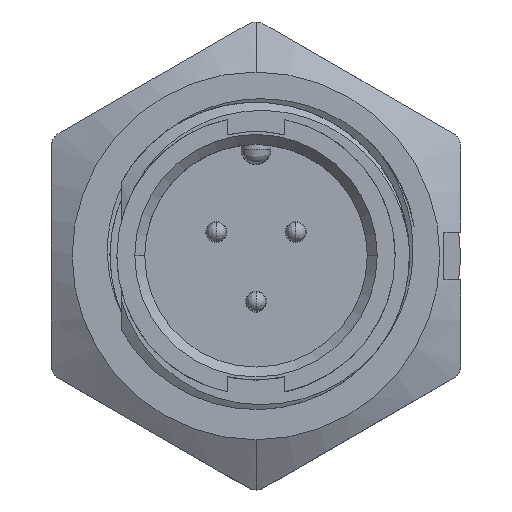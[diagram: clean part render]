
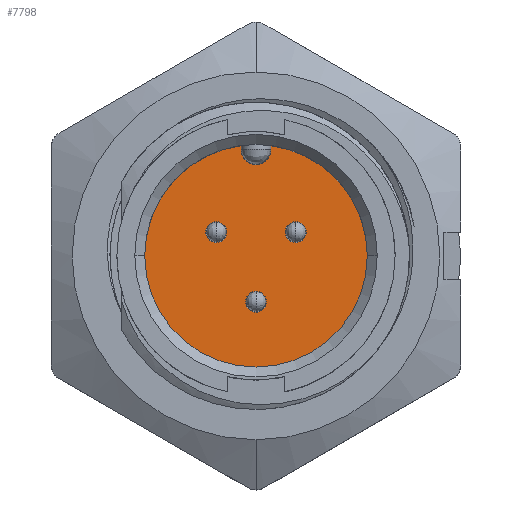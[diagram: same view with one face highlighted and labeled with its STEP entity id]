
A CAD part, top view. The second image highlights one B-rep face of the part: STEP entity #7798.
In plain terms, the highlighted planar face has unit normal (0, 0, 1).
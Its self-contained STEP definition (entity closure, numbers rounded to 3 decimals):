
#360 = CIRCLE ( 'NONE', #6148, 0.525 ) ;
#679 = CIRCLE ( 'NONE', #5269, 5.6 ) ;
#828 = CIRCLE ( 'NONE', #1233, 0.75 ) ;
#1027 = DIRECTION ( 'NONE',  ( 0., -1., 0. ) ) ;
#1233 = AXIS2_PLACEMENT_3D ( 'NONE', #3588, #6334, #7383 ) ;
#1319 = DIRECTION ( 'NONE',  ( 1., 0., 0. ) ) ;
#1377 = FACE_OUTER_BOUND ( 'NONE', #10278, .T. ) ;
#1544 = AXIS2_PLACEMENT_3D ( 'NONE', #2193, #7993, #1319 ) ;
#1627 = ORIENTED_EDGE ( 'NONE', *, *, #10611, .T. ) ;
#1670 = ORIENTED_EDGE ( 'NONE', *, *, #1735, .T. ) ;
#1712 = EDGE_CURVE ( 'NONE', #10554, #9655, #2945, .T. ) ;
#1735 = EDGE_CURVE ( 'NONE', #2214, #7126, #828, .T. ) ;
#1812 = ORIENTED_EDGE ( 'NONE', *, *, #8657, .T. ) ;
#1818 = DIRECTION ( 'NONE',  ( 0., 0., 1. ) ) ;
#1893 = AXIS2_PLACEMENT_3D ( 'NONE', #10364, #1818, #5638 ) ;
#2075 = VERTEX_POINT ( 'NONE', #5182 ) ;
#2091 = CARTESIAN_POINT ( 'NONE',  ( -0.525, -2.3, -9. ) ) ;
#2104 = DIRECTION ( 'NONE',  ( 1., 0., 0. ) ) ;
#2108 = AXIS2_PLACEMENT_3D ( 'NONE', #2351, #4170, #3295 ) ;
#2191 = VERTEX_POINT ( 'NONE', #8407 ) ;
#2193 = CARTESIAN_POINT ( 'NONE',  ( 0., -0.028, -9. ) ) ;
#2204 = VERTEX_POINT ( 'NONE', #8225 ) ;
#2214 = VERTEX_POINT ( 'NONE', #3548 ) ;
#2257 = VERTEX_POINT ( 'NONE', #11958 ) ;
#2351 = CARTESIAN_POINT ( 'NONE',  ( 0., -2.3, -9. ) ) ;
#2514 = ORIENTED_EDGE ( 'NONE', *, *, #8178, .T. ) ;
#2529 = DIRECTION ( 'NONE',  ( 0., 0., -1. ) ) ;
#2704 = CIRCLE ( 'NONE', #4301, 0.525 ) ;
#2734 = ORIENTED_EDGE ( 'NONE', *, *, #10574, .T. ) ;
#2929 = VERTEX_POINT ( 'NONE', #10245 ) ;
#2945 = CIRCLE ( 'NONE', #9911, 0.525 ) ;
#3113 = CARTESIAN_POINT ( 'NONE',  ( -0.75, 5.55, -9. ) ) ;
#3172 = DIRECTION ( 'NONE',  ( 1., 0., 0. ) ) ;
#3295 = DIRECTION ( 'NONE',  ( 1., 0., 0. ) ) ;
#3502 = CARTESIAN_POINT ( 'NONE',  ( 5.6, 0., -9. ) ) ;
#3548 = CARTESIAN_POINT ( 'NONE',  ( 0.75, 5.35, -9. ) ) ;
#3587 = EDGE_LOOP ( 'NONE', ( #1627, #6836 ) ) ;
#3588 = CARTESIAN_POINT ( 'NONE',  ( 0., 5.35, -9. ) ) ;
#3667 = CIRCLE ( 'NONE', #10638, 0.525 ) ;
#3679 = DIRECTION ( 'NONE',  ( 1., 0., 0. ) ) ;
#3852 = DIRECTION ( 'NONE',  ( 1., 0., 0. ) ) ;
#3907 = CIRCLE ( 'NONE', #2108, 0.525 ) ;
#4083 = VERTEX_POINT ( 'NONE', #2091 ) ;
#4104 = CARTESIAN_POINT ( 'NONE',  ( 0., 0., -9. ) ) ;
#4170 = DIRECTION ( 'NONE',  ( 0., 0., -1. ) ) ;
#4301 = AXIS2_PLACEMENT_3D ( 'NONE', #9838, #10651, #2104 ) ;
#4444 = EDGE_CURVE ( 'NONE', #2191, #2214, #7893, .T. ) ;
#4460 = CIRCLE ( 'NONE', #6064, 5.6 ) ;
#4487 = DIRECTION ( 'NONE',  ( 0., 0., -1. ) ) ;
#5043 = DIRECTION ( 'NONE',  ( 0., 0., 1. ) ) ;
#5093 = VERTEX_POINT ( 'NONE', #3113 ) ;
#5097 = CARTESIAN_POINT ( 'NONE',  ( 2., 1.2, -9. ) ) ;
#5180 = CARTESIAN_POINT ( 'NONE',  ( -0.75, 5.35, -9. ) ) ;
#5182 = CARTESIAN_POINT ( 'NONE',  ( -1.475, 1.2, -9. ) ) ;
#5229 = DIRECTION ( 'NONE',  ( 1., 0., 0. ) ) ;
#5269 = AXIS2_PLACEMENT_3D ( 'NONE', #4104, #5043, #3852 ) ;
#5335 = CARTESIAN_POINT ( 'NONE',  ( -0.75, -0.028, -9. ) ) ;
#5358 = EDGE_CURVE ( 'NONE', #2929, #8079, #4460, .T. ) ;
#5398 = DIRECTION ( 'NONE',  ( 0., 1., 0. ) ) ;
#5497 = CARTESIAN_POINT ( 'NONE',  ( -2., 1.2, -9. ) ) ;
#5638 = DIRECTION ( 'NONE',  ( 1., 0., 0. ) ) ;
#5795 = CARTESIAN_POINT ( 'NONE',  ( 1.475, 1.2, -9. ) ) ;
#5951 = FACE_BOUND ( 'NONE', #10721, .T. ) ;
#5983 = DIRECTION ( 'NONE',  ( 0., 0., -1. ) ) ;
#6064 = AXIS2_PLACEMENT_3D ( 'NONE', #8214, #9084, #5229 ) ;
#6148 = AXIS2_PLACEMENT_3D ( 'NONE', #5497, #4487, #3679 ) ;
#6334 = DIRECTION ( 'NONE',  ( 0., 0., -1. ) ) ;
#6347 = EDGE_CURVE ( 'NONE', #2257, #2075, #360, .T. ) ;
#6630 = ORIENTED_EDGE ( 'NONE', *, *, #10655, .T. ) ;
#6832 = CARTESIAN_POINT ( 'NONE',  ( 0.75, -0.028, -9. ) ) ;
#6836 = ORIENTED_EDGE ( 'NONE', *, *, #6347, .T. ) ;
#7113 = PLANE ( 'NONE',  #1544 ) ;
#7126 = VERTEX_POINT ( 'NONE', #5180 ) ;
#7383 = DIRECTION ( 'NONE',  ( 1., 0., 0. ) ) ;
#7798 = ADVANCED_FACE ( 'NONE', ( #5951, #9748, #11796, #1377 ), #7113, .T. ) ;
#7820 = ORIENTED_EDGE ( 'NONE', *, *, #9851, .T. ) ;
#7893 = LINE ( 'NONE', #6832, #8802 ) ;
#7993 = DIRECTION ( 'NONE',  ( 0., 0., 1. ) ) ;
#8079 = VERTEX_POINT ( 'NONE', #3502 ) ;
#8178 = EDGE_CURVE ( 'NONE', #5093, #2929, #679, .T. ) ;
#8214 = CARTESIAN_POINT ( 'NONE',  ( 0., 0., -9. ) ) ;
#8225 = CARTESIAN_POINT ( 'NONE',  ( 0.525, -2.3, -9. ) ) ;
#8385 = DIRECTION ( 'NONE',  ( 1., 0., 0. ) ) ;
#8407 = CARTESIAN_POINT ( 'NONE',  ( 0.75, 5.55, -9. ) ) ;
#8540 = ORIENTED_EDGE ( 'NONE', *, *, #11563, .T. ) ;
#8657 = EDGE_CURVE ( 'NONE', #9655, #10554, #3667, .T. ) ;
#8802 = VECTOR ( 'NONE', #1027, 1000. ) ;
#8889 = DIRECTION ( 'NONE',  ( 0., 0., -1. ) ) ;
#8940 = ORIENTED_EDGE ( 'NONE', *, *, #5358, .T. ) ;
#9079 = AXIS2_PLACEMENT_3D ( 'NONE', #11708, #5983, #3172 ) ;
#9084 = DIRECTION ( 'NONE',  ( 0., 0., 1. ) ) ;
#9263 = CARTESIAN_POINT ( 'NONE',  ( 2., 1.2, -9. ) ) ;
#9586 = ORIENTED_EDGE ( 'NONE', *, *, #1712, .T. ) ;
#9655 = VERTEX_POINT ( 'NONE', #9776 ) ;
#9748 = FACE_BOUND ( 'NONE', #12213, .T. ) ;
#9776 = CARTESIAN_POINT ( 'NONE',  ( 2.525, 1.2, -9. ) ) ;
#9838 = CARTESIAN_POINT ( 'NONE',  ( -2., 1.2, -9. ) ) ;
#9851 = EDGE_CURVE ( 'NONE', #8079, #2191, #10077, .T. ) ;
#9905 = ORIENTED_EDGE ( 'NONE', *, *, #4444, .T. ) ;
#9911 = AXIS2_PLACEMENT_3D ( 'NONE', #9263, #2529, #8385 ) ;
#10077 = CIRCLE ( 'NONE', #1893, 5.6 ) ;
#10245 = CARTESIAN_POINT ( 'NONE',  ( -5.6, 0., -9. ) ) ;
#10278 = EDGE_LOOP ( 'NONE', ( #9905, #1670, #8540, #2514, #8940, #7820 ) ) ;
#10364 = CARTESIAN_POINT ( 'NONE',  ( 0., 0., -9. ) ) ;
#10554 = VERTEX_POINT ( 'NONE', #5795 ) ;
#10574 = EDGE_CURVE ( 'NONE', #2204, #4083, #3907, .T. ) ;
#10611 = EDGE_CURVE ( 'NONE', #2075, #2257, #2704, .T. ) ;
#10638 = AXIS2_PLACEMENT_3D ( 'NONE', #5097, #8889, #11811 ) ;
#10651 = DIRECTION ( 'NONE',  ( 0., 0., -1. ) ) ;
#10655 = EDGE_CURVE ( 'NONE', #4083, #2204, #11264, .T. ) ;
#10721 = EDGE_LOOP ( 'NONE', ( #2734, #6630 ) ) ;
#10989 = LINE ( 'NONE', #5335, #11025 ) ;
#11025 = VECTOR ( 'NONE', #5398, 1000. ) ;
#11264 = CIRCLE ( 'NONE', #9079, 0.525 ) ;
#11563 = EDGE_CURVE ( 'NONE', #7126, #5093, #10989, .T. ) ;
#11708 = CARTESIAN_POINT ( 'NONE',  ( 0., -2.3, -9. ) ) ;
#11796 = FACE_BOUND ( 'NONE', #3587, .T. ) ;
#11811 = DIRECTION ( 'NONE',  ( 1., 0., 0. ) ) ;
#11958 = CARTESIAN_POINT ( 'NONE',  ( -2.525, 1.2, -9. ) ) ;
#12213 = EDGE_LOOP ( 'NONE', ( #1812, #9586 ) ) ;
